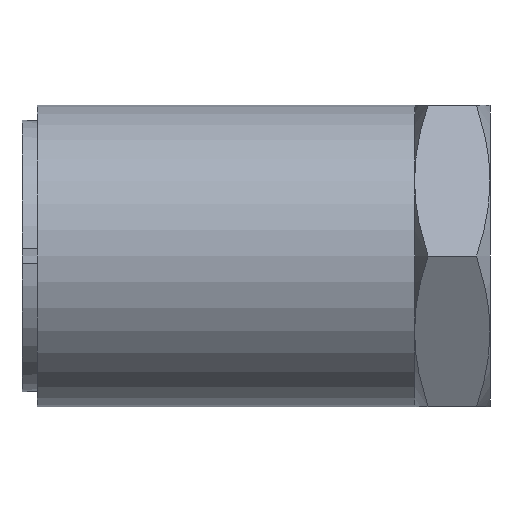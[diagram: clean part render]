
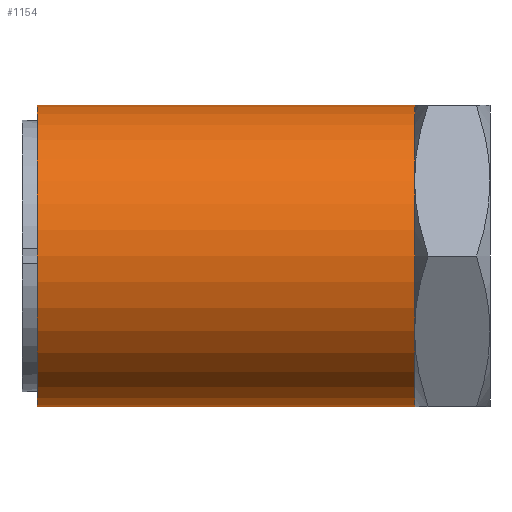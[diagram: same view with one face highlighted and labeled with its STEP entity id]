
A CAD part, front view. The second image highlights one B-rep face of the part: STEP entity #1154.
In plain terms, the highlighted cylindrical face has radius 5 mm (diameter 10 mm), a partial arc.
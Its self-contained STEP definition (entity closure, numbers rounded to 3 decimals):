
#13 = AXIS2_PLACEMENT_3D ( 'NONE', #416, #290, #284 ) ;
#54 = CARTESIAN_POINT ( 'NONE',  ( 12.5, 0., 0. ) ) ;
#87 = DIRECTION ( 'NONE',  ( -1., 0., 0. ) ) ;
#130 = DIRECTION ( 'NONE',  ( 0., 0., 1. ) ) ;
#158 = CARTESIAN_POINT ( 'NONE',  ( 0., 0., 5. ) ) ;
#169 = DIRECTION ( 'NONE',  ( 0., 0., 1. ) ) ;
#187 = DIRECTION ( 'NONE',  ( -1., 0., 0. ) ) ;
#192 = CARTESIAN_POINT ( 'NONE',  ( 12.5, 0., 0. ) ) ;
#207 = CARTESIAN_POINT ( 'NONE',  ( 12.5, -4.33, -2.5 ) ) ;
#211 = CARTESIAN_POINT ( 'NONE',  ( 12.5, 0., -5. ) ) ;
#212 = CARTESIAN_POINT ( 'NONE',  ( 0., 0., -5. ) ) ;
#234 = CARTESIAN_POINT ( 'NONE',  ( 12.5, 0., 5. ) ) ;
#239 = CARTESIAN_POINT ( 'NONE',  ( 12.5, -4.33, 2.5 ) ) ;
#281 = CARTESIAN_POINT ( 'NONE',  ( 0., 0., -5. ) ) ;
#284 = DIRECTION ( 'NONE',  ( 0., 0., 1. ) ) ;
#290 = DIRECTION ( 'NONE',  ( -1., 0., 0. ) ) ;
#349 = VERTEX_POINT ( 'NONE', #234 ) ;
#351 = VERTEX_POINT ( 'NONE', #239 ) ;
#354 = VERTEX_POINT ( 'NONE', #158 ) ;
#359 = VERTEX_POINT ( 'NONE', #212 ) ;
#362 = VERTEX_POINT ( 'NONE', #211 ) ;
#367 = VERTEX_POINT ( 'NONE', #207 ) ;
#416 = CARTESIAN_POINT ( 'NONE',  ( 12.5, 0., 0. ) ) ;
#417 = CARTESIAN_POINT ( 'NONE',  ( 0., 0., 0. ) ) ;
#443 = DIRECTION ( 'NONE',  ( -1., 0., 0. ) ) ;
#474 = CARTESIAN_POINT ( 'NONE',  ( 0., 0., 5. ) ) ;
#475 = DIRECTION ( 'NONE',  ( -1., 0., 0. ) ) ;
#525 = CARTESIAN_POINT ( 'NONE',  ( 0., 0., 0. ) ) ;
#526 = DIRECTION ( 'NONE',  ( -1., 0., 0. ) ) ;
#529 = DIRECTION ( 'NONE',  ( 0., 0., 1. ) ) ;
#582 = DIRECTION ( 'NONE',  ( -1., 0., 0. ) ) ;
#590 = DIRECTION ( 'NONE',  ( 0., 0., 1. ) ) ;
#654 = VECTOR ( 'NONE', #87, 1000. ) ;
#665 = CIRCLE ( 'NONE', #1213, 5. ) ;
#681 = FACE_OUTER_BOUND ( 'NONE', #978, .T. ) ;
#690 = CYLINDRICAL_SURFACE ( 'NONE', #1266, 5. ) ;
#720 = CIRCLE ( 'NONE', #1293, 5. ) ;
#731 = LINE ( 'NONE', #281, #654 ) ;
#909 = ORIENTED_EDGE ( 'NONE', *, *, #1295, .F. ) ;
#913 = ORIENTED_EDGE ( 'NONE', *, *, #1298, .T. ) ;
#915 = ORIENTED_EDGE ( 'NONE', *, *, #1200, .T. ) ;
#916 = ORIENTED_EDGE ( 'NONE', *, *, #1345, .T. ) ;
#917 = ORIENTED_EDGE ( 'NONE', *, *, #1334, .T. ) ;
#918 = ORIENTED_EDGE ( 'NONE', *, *, #1259, .F. ) ;
#978 = EDGE_LOOP ( 'NONE', ( #909, #913, #915, #916, #917, #918 ) ) ;
#1086 = CIRCLE ( 'NONE', #13, 5. ) ;
#1108 = VECTOR ( 'NONE', #475, 1000. ) ;
#1124 = LINE ( 'NONE', #474, #1108 ) ;
#1126 = CIRCLE ( 'NONE', #1313, 5. ) ;
#1154 = ADVANCED_FACE ( 'NONE', ( #681 ), #690, .T. ) ;
#1200 = EDGE_CURVE ( 'NONE', #367, #351, #720, .T. ) ;
#1213 = AXIS2_PLACEMENT_3D ( 'NONE', #417, #443, #130 ) ;
#1259 = EDGE_CURVE ( 'NONE', #359, #354, #665, .T. ) ;
#1266 = AXIS2_PLACEMENT_3D ( 'NONE', #525, #526, #529 ) ;
#1293 = AXIS2_PLACEMENT_3D ( 'NONE', #54, #582, #590 ) ;
#1295 = EDGE_CURVE ( 'NONE', #362, #359, #731, .T. ) ;
#1298 = EDGE_CURVE ( 'NONE', #362, #367, #1126, .T. ) ;
#1313 = AXIS2_PLACEMENT_3D ( 'NONE', #192, #187, #169 ) ;
#1334 = EDGE_CURVE ( 'NONE', #349, #354, #1124, .T. ) ;
#1345 = EDGE_CURVE ( 'NONE', #351, #349, #1086, .T. ) ;
